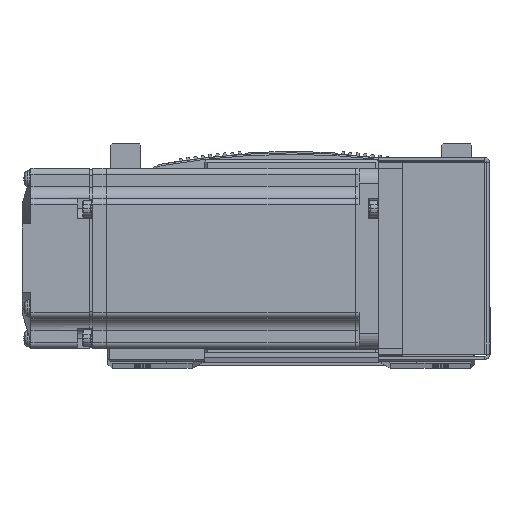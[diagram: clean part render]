
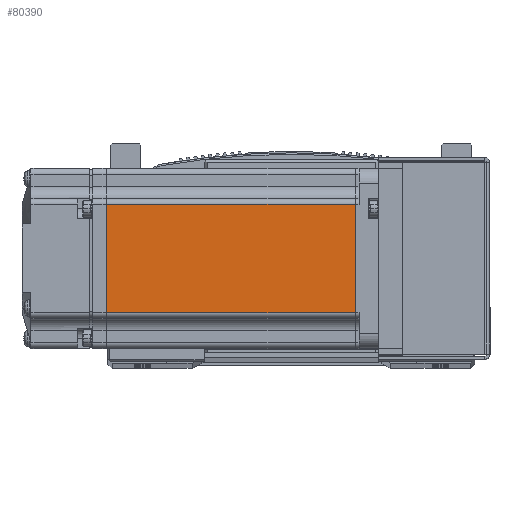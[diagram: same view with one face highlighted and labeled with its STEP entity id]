
A CAD part, top view. The second image highlights one B-rep face of the part: STEP entity #80390.
In plain terms, the highlighted planar face has unit normal (0, 0, 1) as drawn and (0, 1, 0) by its records, which use the part's own axes.
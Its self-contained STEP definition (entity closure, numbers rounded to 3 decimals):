
#6905 = DIRECTION ( 'NONE',  ( 1., 0., 0. ) ) ;
#6962 = CARTESIAN_POINT ( 'NONE',  ( -6.5, 30., 18. ) ) ;
#13308 = VECTOR ( 'NONE', #6905, 1000. ) ;
#13337 = LINE ( 'NONE', #6962, #13308 ) ;
#15747 = EDGE_LOOP ( 'NONE', ( #86542, #86534, #53391, #53510 ) ) ;
#26283 = LINE ( 'NONE', #88925, #26319 ) ;
#26299 = LINE ( 'NONE', #88872, #26343 ) ;
#26319 = VECTOR ( 'NONE', #88915, 1000. ) ;
#26343 = VECTOR ( 'NONE', #88855, 1000. ) ;
#27640 = VECTOR ( 'NONE', #88698, 1000. ) ;
#27656 = LINE ( 'NONE', #88674, #27640 ) ;
#28907 = DIRECTION ( 'NONE',  ( 0., 1., 0. ) ) ;
#28912 = PLANE ( 'NONE',  #45415 ) ;
#28933 = DIRECTION ( 'NONE',  ( 0., 0., 1. ) ) ;
#28937 = CARTESIAN_POINT ( 'NONE',  ( -6.5, 30., 25. ) ) ;
#37813 = CARTESIAN_POINT ( 'NONE',  ( -90.45, 30., 18. ) ) ;
#38207 = CARTESIAN_POINT ( 'NONE',  ( -7.75, 30., -18. ) ) ;
#38431 = CARTESIAN_POINT ( 'NONE',  ( -7.75, 30., 18. ) ) ;
#39133 = CARTESIAN_POINT ( 'NONE',  ( -90.45, 30., -18. ) ) ;
#45415 = AXIS2_PLACEMENT_3D ( 'NONE', #28937, #28907, #28933 ) ;
#53391 = ORIENTED_EDGE ( 'NONE', *, *, #64347, .T. ) ;
#53510 = ORIENTED_EDGE ( 'NONE', *, *, #75373, .T. ) ;
#60654 = VERTEX_POINT ( 'NONE', #37813 ) ;
#61251 = VERTEX_POINT ( 'NONE', #38207 ) ;
#61888 = VERTEX_POINT ( 'NONE', #38431 ) ;
#62400 = VERTEX_POINT ( 'NONE', #39133 ) ;
#64293 = EDGE_CURVE ( 'NONE', #61251, #62400, #27656, .T. ) ;
#64343 = EDGE_CURVE ( 'NONE', #61251, #61888, #26299, .T. ) ;
#64347 = EDGE_CURVE ( 'NONE', #62400, #60654, #26283, .T. ) ;
#75373 = EDGE_CURVE ( 'NONE', #60654, #61888, #13337, .T. ) ;
#77782 = FACE_OUTER_BOUND ( 'NONE', #15747, .T. ) ;
#80390 = ADVANCED_FACE ( 'NONE', ( #77782 ), #28912, .T. ) ;
#86534 = ORIENTED_EDGE ( 'NONE', *, *, #64293, .T. ) ;
#86542 = ORIENTED_EDGE ( 'NONE', *, *, #64343, .F. ) ;
#88674 = CARTESIAN_POINT ( 'NONE',  ( -6.5, 30., -18. ) ) ;
#88698 = DIRECTION ( 'NONE',  ( -1., 0., 0. ) ) ;
#88855 = DIRECTION ( 'NONE',  ( 0., 0., 1. ) ) ;
#88872 = CARTESIAN_POINT ( 'NONE',  ( -7.75, 30., 0. ) ) ;
#88915 = DIRECTION ( 'NONE',  ( 0., 0., 1. ) ) ;
#88925 = CARTESIAN_POINT ( 'NONE',  ( -90.45, 30., 0. ) ) ;
